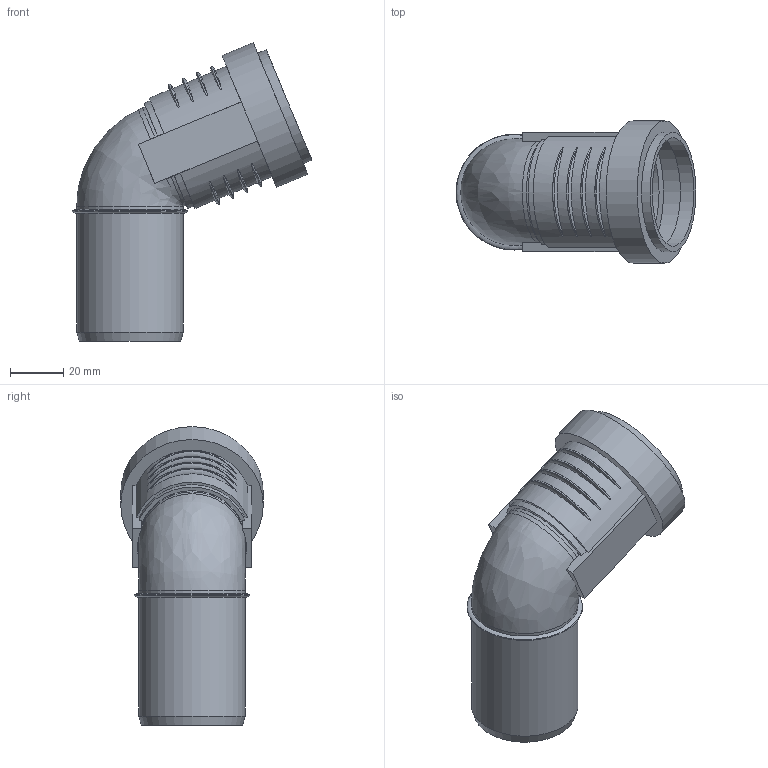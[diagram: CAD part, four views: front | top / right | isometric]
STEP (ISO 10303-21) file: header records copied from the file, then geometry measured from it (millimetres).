
FILE_DESCRIPTION(/* description */ (''),/* implementation_level */ '2;1');
FILE_NAME(/* name */ 'Z:\Geberit\Export\NewStep\390123.stp',/* time_stamp */ '2014-04-02T08:09:03+02:00',/* author */ ('ML'),/* organization */ (''),/* preprocessor_version */ 'ST-DEVELOPER v15.2',/* originating_system */ 'Autodesk Inventor 2014',/* authorisation */ '');
FILE_SCHEMA (('AUTOMOTIVE_DESIGN { 1 0 10303 214 3 1 1 }'));
Length unit declared in the file: millimetre
Products named in the file (3): 861319; 861400; 390123
Bounding box: 90.38 x 53.7 x 112.59 mm (x, y, z)
Volume: 37948.9 mm3; surface area: 38561.4 mm2
Topology: 2 solids, 2 shells, 68 faces, 162 edges, 109 vertices
Faces by surface type: torus 28, plane 19, cylinder 18, cone 2, bspline 1
Full cylindrical faces by diameter (mm): 36.15 x3, 40.15 x4, 41 x2, 45 x1, 49.7 x1, 53.7 x1
Entity records: 2598 total; most frequent: CARTESIAN_POINT 1022, DIRECTION 290, ORIENTED_EDGE 278, EDGE_CURVE 139, AXIS2_PLACEMENT_3D 127, VERTEX_POINT 106, EDGE_LOOP 103, STYLED_ITEM 70
